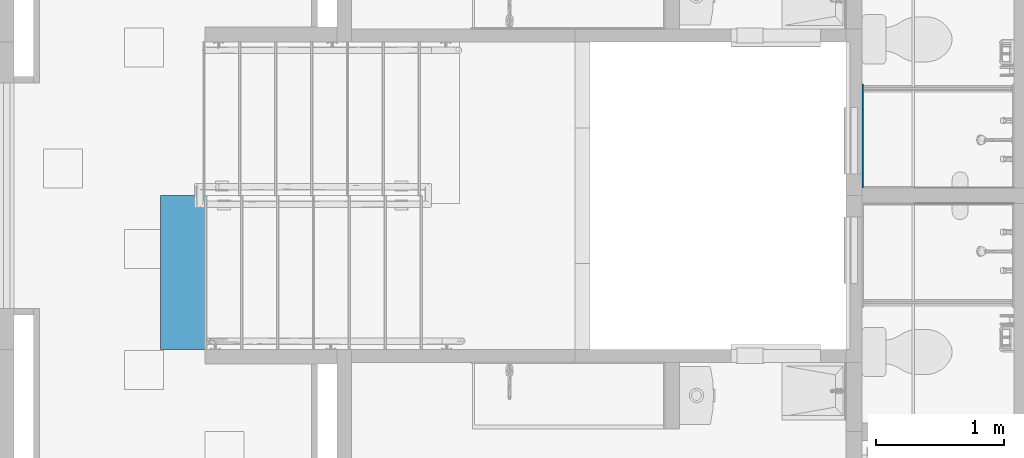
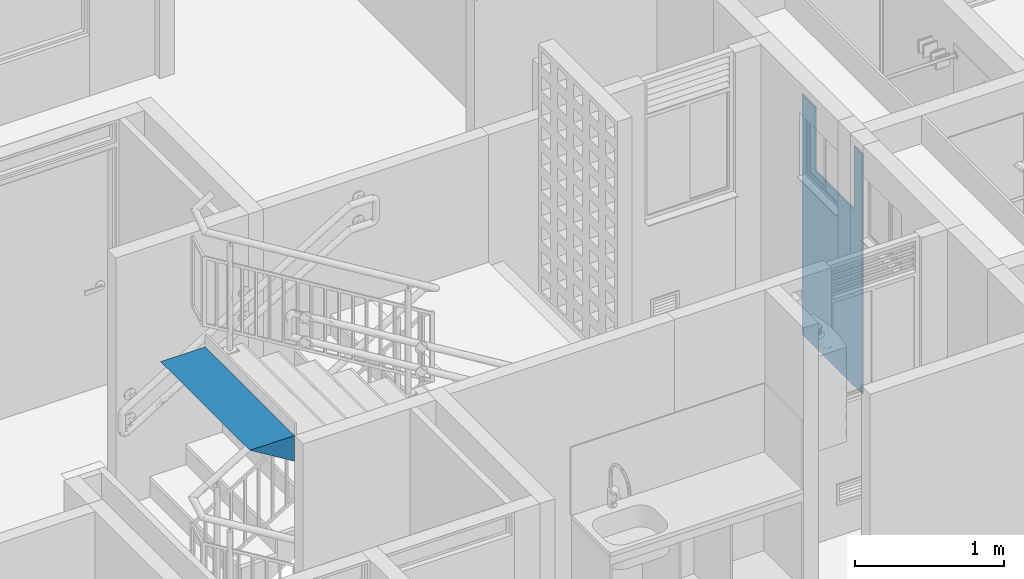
# One storey, part 30 of 51: 1 stair, 1 wall, 1 opening.
"""IFC4 building model written with IfcOpenShell, lengths in metres."""

import ifcopenshell
import ifcopenshell.guid

model = None  # the IFC model being written
_history = None  # IfcOwnerHistory: only IFC2X3 demands one
_inside = {}  # id of a spatial element -> (the spatial element, [elements in it])
_under = {}  # id of a project, library or spatial element -> (it, [spatial elements below it])
_declared = {}  # id of a project -> (the project, [libraries it declares])
_typed = {}  # id of a type object -> (the type object, [elements of that type])
_made_of = {}  # id of a material, layer set ... -> (it, [elements and type objects made of it])


def new_model(schema):
    """Start an empty IFC model of exactly this schema.

    Asked for "IFC4X3", IfcOpenShell would pick the latest addendum, in which some entities
    have other attributes; the version numbers below select the first issue.
    IFC2X3 requires an IfcOwnerHistory on every rooted entity: one is made here for all.
    """
    global model, _history
    if schema == "IFC4X3":
        model = ifcopenshell.file(schema_version=(4, 3, 0, 0))
    else:
        model = ifcopenshell.file(schema=schema)
    _inside.clear()
    _under.clear()
    _declared.clear()
    _typed.clear()
    _made_of.clear()
    _history = None
    if model.schema == "IFC2X3":
        org = make("IfcOrganization", Name="unknown")
        user = make(
            "IfcPersonAndOrganization",
            ThePerson=make("IfcPerson", FamilyName="unknown"),
            TheOrganization=org,
        )
        app = make(
            "IfcApplication",
            ApplicationDeveloper=org,
            Version="unknown",
            ApplicationFullName="unknown",
            ApplicationIdentifier="unknown",
        )
        _history = make(
            "IfcOwnerHistory",
            OwningUser=user,
            OwningApplication=app,
            ChangeAction="ADDED",
            CreationDate=0,
        )
    return model


def make(cls, **values):
    """One entity of the class cls with the attributes given. An attribute that is None is left unset."""
    return model.create_entity(
        cls, **{name: value for name, value in values.items() if value is not None}
    )


def entity(cls, *values):
    """Any entity or typed value of the class cls, its attributes in the order of the schema. None: left unset."""
    e = model.create_entity(cls)
    for i, value in enumerate(values):
        if value is not None:
            e[i] = value
    return e


def rooted(cls, **values):
    """An entity with a GlobalId (a new one), such as an element, a storey or a relation."""
    return make(cls, GlobalId=ifcopenshell.guid.new(), OwnerHistory=_history, **values)


def si_unit(unit_type, name, prefix=None):
    """IfcSIUnit, for example si_unit("LENGTHUNIT", "METRE", prefix="MILLI")."""
    return make("IfcSIUnit", UnitType=unit_type, Prefix=prefix, Name=name)


def converted_unit(unit_type, name, factor, base, dimensions=None, offset=None):
    """IfcConversionBasedUnit, such as the inch: factor (a typed value) times the base unit."""
    return make(
        "IfcConversionBasedUnit"
        if offset is None
        else "IfcConversionBasedUnitWithOffset",
        ConversionOffset=offset,
        Dimensions=None
        if dimensions is None
        else entity("IfcDimensionalExponents", *dimensions),
        UnitType=unit_type,
        Name=name,
        ConversionFactor=make(
            "IfcMeasureWithUnit", ValueComponent=factor, UnitComponent=base
        ),
    )


def derived_unit(unit_type, elements):
    """IfcDerivedUnit: a product of units, each with its exponent."""
    return make(
        "IfcDerivedUnit",
        Elements=[
            make("IfcDerivedUnitElement", Unit=unit, Exponent=power)
            for unit, power in elements
        ],
        UnitType=unit_type,
    )


def assignment(units):
    """IfcUnitAssignment: the units of a project."""
    return None if units is None else make("IfcUnitAssignment", Units=units)


def point(xyz):
    """IfcCartesianPoint."""
    return None if xyz is None else make("IfcCartesianPoint", Coordinates=xyz)


def direction(xyz):
    """IfcDirection."""
    return None if xyz is None else make("IfcDirection", DirectionRatios=xyz)


def frame(location, z_axis=None, x_axis=None):
    """IfcAxis2Placement3D, a coordinate frame: its origin and axes. An axis left out is left unset."""
    return make(
        "IfcAxis2Placement3D",
        Location=point(location),
        Axis=direction(z_axis),
        RefDirection=direction(x_axis),
    )


def origin():
    """The frame at (0, 0, 0) with its axes left unset."""
    return frame((0.0, 0.0, 0.0))


def place(relative_to, where):
    """IfcLocalPlacement: puts the frame where relative to a parent placement (None: the world)."""
    return make(
        "IfcLocalPlacement", PlacementRelTo=relative_to, RelativePlacement=where
    )


def context(
    kind, dimensions, precision=None, world=None, true_north=None, identifier=None
):
    """IfcGeometricRepresentationContext, for example the 3D "Model" context."""
    return make(
        "IfcGeometricRepresentationContext",
        ContextIdentifier=identifier,
        ContextType=kind,
        CoordinateSpaceDimension=dimensions,
        Precision=precision,
        WorldCoordinateSystem=world,
        TrueNorth=true_north,
    )


def subcontext(parent, identifier, kind, view, scale=None):
    """IfcGeometricRepresentationSubContext, for example "Body" below "Model"."""
    return make(
        "IfcGeometricRepresentationSubContext",
        ContextIdentifier=identifier,
        ContextType=kind,
        ParentContext=parent,
        TargetScale=scale,
        TargetView=view,
    )


def project(units=None, contexts=None):
    """IfcProject with its units and contexts."""
    return rooted(
        "IfcProject",
        Name="project",
        RepresentationContexts=contexts,
        UnitsInContext=assignment(units),
    )


def spatial(cls, under=None, at=None, **own):
    """A site, building, storey or space (cls), placed at a placement, below another one or the project."""
    s = rooted(cls, ObjectPlacement=at, **own)
    if under is not None:
        _under.setdefault(under.id(), (under, []))[1].append(s)
    return s


def point_list(points):
    """IfcCartesianPointList2D or 3D."""
    cls = (
        "IfcCartesianPointList2D" if len(points[0]) == 2 else "IfcCartesianPointList3D"
    )
    return make(cls, CoordList=points)


def indexed_curve(points, segments=None, self_intersect=None):
    """IfcIndexedPolyCurve: lines and arcs through numbered points (the first is 1)."""
    return make(
        "IfcIndexedPolyCurve",
        Points=point_list(points),
        Segments=segments,
        SelfIntersect=self_intersect,
    )


def outline(outer, holes=None, kind="AREA"):
    """IfcArbitraryClosedProfileDef: a profile drawn as a closed curve; with holes, ...WithVoids."""
    if holes is None:
        return make("IfcArbitraryClosedProfileDef", ProfileType=kind, OuterCurve=outer)
    return make(
        "IfcArbitraryProfileDefWithVoids",
        ProfileType=kind,
        OuterCurve=outer,
        InnerCurves=holes,
    )


def extrude(swept, where, along, depth):
    """IfcExtrudedAreaSolid: the profile swept, set in the frame where, extruded along a direction by depth."""
    return make(
        "IfcExtrudedAreaSolid",
        SweptArea=swept,
        Position=where,
        ExtrudedDirection=direction(along),
        Depth=depth,
    )


def polygons(points, faces, closed=None, point_numbers=None):
    """IfcPolygonalFaceSet: a face is its outer loop, then its inner loops; points numbered from 1."""
    made = []
    for loops in faces:
        if len(loops) == 1:
            made.append(make("IfcIndexedPolygonalFace", CoordIndex=loops[0]))
        else:
            made.append(
                make(
                    "IfcIndexedPolygonalFaceWithVoids",
                    CoordIndex=loops[0],
                    InnerCoordIndices=loops[1:],
                )
            )
    return make(
        "IfcPolygonalFaceSet",
        Coordinates=point_list(points),
        Closed=closed,
        Faces=made,
        PnIndex=point_numbers,
    )


def shape(context_of_items, identifier, shape_type, items):
    """IfcShapeRepresentation: the items that make up one representation, for example the "Body"."""
    return make(
        "IfcShapeRepresentation",
        ContextOfItems=context_of_items,
        RepresentationIdentifier=identifier,
        RepresentationType=shape_type,
        Items=items,
    )


def material(Name=None, Category=None):
    """IfcMaterial."""
    return make("IfcMaterial", Name=Name, Category=Category)


def made_of(thing, what):
    """Note that an element or type object is made of a material, layer set ...; save() writes the relation."""
    if what is not None:
        _made_of.setdefault(what.id(), (what, []))[1].append(thing)
    return thing


def type_object(cls, material=None, **own):
    """A type object (cls), such as IfcWallType, which elements share."""
    return made_of(rooted(cls, **own), material)


def element(
    cls,
    number,
    at=None,
    inside=None,
    cuts=None,
    type_object=None,
    material=None,
    context=None,
    identifier="Body",
    shape_type=None,
    held_by="IfcProductDefinitionShape",
    body=None,
    shapes=None,
    **own,
):
    """One element of the class cls, such as IfcWall. Its Tag is "e" and its number.

    at: its placement. inside: the storey or other place that contains it. cuts: it is an
    opening in that element (IfcRelVoidsElement). A single representation is given by context,
    identifier, shape_type and body (its items); several are given by shapes. held_by: the class
    of the entity that holds the representations. save() writes the other relations.
    """
    e = rooted(cls, Tag="e%d" % number, ObjectPlacement=at, **own)
    if body is not None:
        shapes = [shape(context, identifier, shape_type, body)]
    if shapes is not None:
        e.Representation = make(held_by, Representations=shapes)
    if inside is not None:
        _inside.setdefault(inside.id(), (inside, []))[1].append(e)
    if cuts is not None:
        rooted(
            "IfcRelVoidsElement", RelatingBuildingElement=cuts, RelatedOpeningElement=e
        )
    if type_object is not None:
        _typed.setdefault(type_object.id(), (type_object, []))[1].append(e)
    return made_of(e, material)


def aggregate(whole, parts):
    """IfcRelAggregates: a whole, such as a stair, and the parts it consists of."""
    return rooted("IfcRelAggregates", RelatingObject=whole, RelatedObjects=parts)


def save(model, path):
    """Write the relations noted so far, then the file.

    IfcRelAggregates (storeys below a building ...), IfcRelContainedInSpatialStructure (elements
    in a storey), IfcRelDefinesByType, IfcRelAssociatesMaterial and IfcRelDeclares: one each for
    every whole, place, type object, material and project.
    """
    for whole, parts in _under.values():
        aggregate(whole, parts)
    for where, things in _inside.values():
        rooted(
            "IfcRelContainedInSpatialStructure",
            RelatedElements=things,
            RelatingStructure=where,
        )
    for kind, things in _typed.values():
        rooted("IfcRelDefinesByType", RelatedObjects=things, RelatingType=kind)
    for what, things in _made_of.values():
        rooted("IfcRelAssociatesMaterial", RelatedObjects=things, RelatingMaterial=what)
    for by, libraries in _declared.values():
        rooted("IfcRelDeclares", RelatingContext=by, RelatedDefinitions=libraries)
    model.write(path)


model = new_model("IFC4")

# Units and contexts
model_context = context("Model", 3, precision=1e-05, world=origin(), true_north=direction((6.123031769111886e-17, 1.0)))
body_context = subcontext(model_context, "Body", "Model", "MODEL_VIEW")
ifc_project = project(units=[si_unit("LENGTHUNIT", "METRE"), si_unit("AREAUNIT", "SQUARE_METRE"), si_unit("VOLUMEUNIT", "CUBIC_METRE"), converted_unit("PLANEANGLEUNIT", "DEGREE", entity("IfcRatioMeasure", 0.017453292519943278), si_unit("PLANEANGLEUNIT", "RADIAN"), dimensions=[0, 0, 0, 0, 0, 0, 0]), si_unit("MASSUNIT", "GRAM", prefix="KILO"), derived_unit("MASSDENSITYUNIT", [(si_unit("MASSUNIT", "GRAM", prefix="KILO"), 1), (si_unit("LENGTHUNIT", "METRE"), -3)]), derived_unit("IONCONCENTRATIONUNIT", [(si_unit("MASSUNIT", "GRAM", prefix="KILO"), 1), (si_unit("LENGTHUNIT", "METRE"), -3)]), derived_unit("MOMENTOFINERTIAUNIT", [(si_unit("LENGTHUNIT", "METRE"), 4)]), si_unit("TIMEUNIT", "SECOND"), si_unit("FREQUENCYUNIT", "HERTZ"), si_unit("THERMODYNAMICTEMPERATUREUNIT", "DEGREE_CELSIUS"), derived_unit("THERMALTRANSMITTANCEUNIT", [(si_unit("MASSUNIT", "GRAM", prefix="KILO"), 1), (si_unit("THERMODYNAMICTEMPERATUREUNIT", "KELVIN"), -1), (si_unit("TIMEUNIT", "SECOND"), -3)]), derived_unit("THERMALCONDUCTANCEUNIT", [(si_unit("MASSUNIT", "GRAM", prefix="KILO"), 1), (si_unit("THERMODYNAMICTEMPERATUREUNIT", "KELVIN"), -1), (si_unit("TIMEUNIT", "SECOND"), -3), (si_unit("LENGTHUNIT", "METRE"), 1)]), derived_unit("VOLUMETRICFLOWRATEUNIT", [(si_unit("LENGTHUNIT", "METRE"), 3), (si_unit("TIMEUNIT", "SECOND"), -1)]), derived_unit("MASSFLOWRATEUNIT", [(si_unit("MASSUNIT", "GRAM", prefix="KILO"), 1), (si_unit("TIMEUNIT", "SECOND"), -1)]), derived_unit("ROTATIONALFREQUENCYUNIT", [(si_unit("TIMEUNIT", "SECOND"), -1)]), si_unit("ELECTRICCURRENTUNIT", "AMPERE"), si_unit("ELECTRICVOLTAGEUNIT", "VOLT"), si_unit("POWERUNIT", "WATT"), si_unit("FORCEUNIT", "NEWTON", prefix="KILO"), si_unit("ILLUMINANCEUNIT", "LUX"), si_unit("LUMINOUSFLUXUNIT", "LUMEN"), si_unit("LUMINOUSINTENSITYUNIT", "CANDELA"), derived_unit("USERDEFINED", [(si_unit("MASSUNIT", "GRAM", prefix="KILO"), -1), (si_unit("LENGTHUNIT", "METRE"), -2), (si_unit("TIMEUNIT", "SECOND"), 3), (si_unit("LUMINOUSFLUXUNIT", "LUMEN"), 1)]), derived_unit("USERDEFINED", [(si_unit("MASSUNIT", "GRAM", prefix="KILO"), 1), (si_unit("TIMEUNIT", "SECOND"), -3), (si_unit("LENGTHUNIT", "METRE"), 3), (si_unit("ELECTRICCURRENTUNIT", "AMPERE"), -2)]), derived_unit("SOUNDPOWERUNIT", [(si_unit("MASSUNIT", "GRAM", prefix="KILO"), 1), (si_unit("TIMEUNIT", "SECOND"), -3), (si_unit("LENGTHUNIT", "METRE"), 2)]), derived_unit("SOUNDPRESSUREUNIT", [(si_unit("MASSUNIT", "GRAM", prefix="KILO"), 1), (si_unit("LENGTHUNIT", "METRE"), -1), (si_unit("TIMEUNIT", "SECOND"), -2)]), derived_unit("LINEARVELOCITYUNIT", [(si_unit("LENGTHUNIT", "METRE"), 1), (si_unit("TIMEUNIT", "SECOND"), -1)]), si_unit("PRESSUREUNIT", "PASCAL"), derived_unit("USERDEFINED", [(si_unit("MASSUNIT", "GRAM", prefix="KILO"), 1), (si_unit("LENGTHUNIT", "METRE"), -2), (si_unit("TIMEUNIT", "SECOND"), -2)]), derived_unit("LINEARFORCEUNIT", [(si_unit("MASSUNIT", "GRAM", prefix="KILO"), 1), (si_unit("TIMEUNIT", "SECOND"), -2)]), derived_unit("PLANARFORCEUNIT", [(si_unit("MASSUNIT", "GRAM", prefix="KILO"), 1), (si_unit("LENGTHUNIT", "METRE"), -1), (si_unit("TIMEUNIT", "SECOND"), -2)]), derived_unit("SPECIFICHEATCAPACITYUNIT", [(si_unit("THERMODYNAMICTEMPERATUREUNIT", "KELVIN"), -1), (si_unit("LENGTHUNIT", "METRE"), 2), (si_unit("TIMEUNIT", "SECOND"), -2)]), derived_unit("HEATINGVALUEUNIT", [(si_unit("LENGTHUNIT", "METRE"), 2), (si_unit("TIMEUNIT", "SECOND"), -2)]), derived_unit("VAPORPERMEABILITYUNIT", [(si_unit("LENGTHUNIT", "METRE"), -1), (si_unit("TIMEUNIT", "SECOND"), 1)]), derived_unit("DYNAMICVISCOSITYUNIT", [(si_unit("MASSUNIT", "GRAM", prefix="KILO"), 1), (si_unit("TIMEUNIT", "SECOND"), -1), (si_unit("LENGTHUNIT", "METRE"), -1)]), derived_unit("THERMALEXPANSIONCOEFFICIENTUNIT", [(si_unit("THERMODYNAMICTEMPERATUREUNIT", "KELVIN"), -1)]), derived_unit("MODULUSOFELASTICITYUNIT", [(si_unit("MASSUNIT", "GRAM", prefix="KILO"), 1), (si_unit("LENGTHUNIT", "METRE"), -1), (si_unit("TIMEUNIT", "SECOND"), -2)]), derived_unit("ISOTHERMALMOISTURECAPACITYUNIT", [(si_unit("LENGTHUNIT", "METRE"), 3), (si_unit("MASSUNIT", "GRAM", prefix="KILO"), -1)]), derived_unit("MOISTUREDIFFUSIVITYUNIT", [(si_unit("TIMEUNIT", "SECOND"), -1), (si_unit("LENGTHUNIT", "METRE"), 2)])], contexts=[model_context])

# Site, building, storey
site_placement = place(None, origin())
site = spatial("IfcSite", under=ifc_project, at=site_placement, Name="Default", CompositionType="ELEMENT")
building_placement = place(site_placement, origin())
building = spatial("IfcBuilding", under=site, at=building_placement, CompositionType="ELEMENT")
storey_placement = place(building_placement, frame((0.0, 0.0, 2.350000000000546)))
storey = spatial("IfcBuildingStorey", under=building, at=storey_placement, Name="Nivel 2", CompositionType="ELEMENT", Elevation=2.350000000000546)

# Wall, opening
ifc_material_1 = material(Name="Ceramica 0.25m x 0.35m", Category="Materials")
wall_type = type_object("IfcWallType", Name="Basic Wall:C2010 - 0.25 x 0.35 - Enchape cerámico", PredefinedType="STANDARD")
wall_placement = place(storey_placement, frame((14.687500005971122, -6.3650000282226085, 0.03000000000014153), z_axis=(0.0, 0.0, 1.0), x_axis=(0.0, 1.0, 0.0)))
wall = element("IfcWall", 1, at=wall_placement, inside=storey, type_object=wall_type, material=ifc_material_1, Name="Basic Wall:C2010 - 0.25 x 0.35 - Enchape cerámico", ObjectType="Basic Wall:C2010 - 0.25 x 0.35 - Enchape cerámico", PredefinedType="NOTDEFINED", context=body_context, shape_type="Tessellation", body=[
    polygons([(0.0, -0.004999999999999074, 5.414335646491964e-16), (0.009999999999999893, -0.004999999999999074, 2.707167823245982e-16), (0.8099999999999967, -0.004999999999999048, 5.414335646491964e-16), (0.8099999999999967, -0.004999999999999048, 1.9700000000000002), (0.6309543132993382, -0.004999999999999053, 1.9700000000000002), (0.6309543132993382, -0.004999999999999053, 1.4500000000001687), (0.11095431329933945, -0.00499999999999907, 1.4500000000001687), (0.11095431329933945, -0.00499999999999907, 1.9699999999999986), (0.009999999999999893, -0.004999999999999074, 1.969999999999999), (0.0, -0.004999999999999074, 1.9699999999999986), (0.0, 0.004999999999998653, 5.414335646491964e-16), (0.0, 0.004999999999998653, 1.9699999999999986), (0.11095431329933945, 0.004999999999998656, 1.9699999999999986), (0.11095431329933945, 0.004999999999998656, 1.4500000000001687), (0.6309543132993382, 0.004999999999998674, 1.4500000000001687), (0.6309543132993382, 0.004999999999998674, 1.9700000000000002), (0.8099999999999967, 0.004999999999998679, 1.9700000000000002), (0.8099999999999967, 0.004999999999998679, 5.414335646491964e-16)], [[[1, 2, 3, 4, 5, 6, 7, 8, 9, 10]], [[11, 12, 13, 14, 15, 16, 17, 18]], [[3, 2, 1, 11, 18]], [[4, 3, 18, 17]], [[5, 4, 17, 16]], [[6, 5, 16, 15]], [[7, 6, 15, 14]], [[8, 7, 14, 13]], [[10, 9, 8, 13, 12]], [[1, 10, 12, 11]]], closed=True),
])
opening_placement = place(wall_placement, origin())
element("IfcOpeningElement", 2, at=opening_placement, cuts=wall, Name="Basic Wall:C2010 - 0.25 x 0.35 - Enchape cerámico", PredefinedType="OPENING", context=body_context, shape_type="SweptSolid", body=[
    extrude(outline(indexed_curve([(-0.2599999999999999, -0.25999999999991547), (0.25999999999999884, -0.25999999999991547), (0.2599999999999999, 0.25999999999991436), (-0.25999999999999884, 0.25999999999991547), (-0.2599999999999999, -0.25999999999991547)], self_intersect=False)), frame((0.3709543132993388, 0.00500000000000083, 1.7100000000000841), z_axis=(0.0, -1.0, 0.0), x_axis=(-1.0, 0.0, 0.0)), (0.0, 0.0, 1.0), 0.01),
])

# Stair
ifc_material_2 = material(Name="Concreto (Aire)", Category="Materials")
stair_type = type_object("IfcStairType", Name="ESCALON1:ESCALON", PredefinedType="NOTDEFINED")
stair_placement = place(storey_placement, origin())
element("IfcStair", 3, at=stair_placement, inside=storey, type_object=stair_type, material=ifc_material_2, Name="ESCALON1:ESCALON", ObjectType="ESCALON1:ESCALON", PredefinedType="NOTDEFINED", context=body_context, shape_type="SweptSolid", body=[
    extrude(outline(indexed_curve([(-0.07012858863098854, -0.1155059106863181), (0.1402571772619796, -0.1155059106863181), (-0.07012858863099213, 0.23101182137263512), (-0.07012858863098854, -0.1155059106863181)], self_intersect=False)), frame((9.436994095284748, -7.625000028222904, 2.1798714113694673), z_axis=(0.0, 1.0, 0.0), x_axis=(0.0, 0.0, -1.0)), (0.0, 0.0, 1.0), 1.200000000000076),
])

save(model, "model.ifc")
